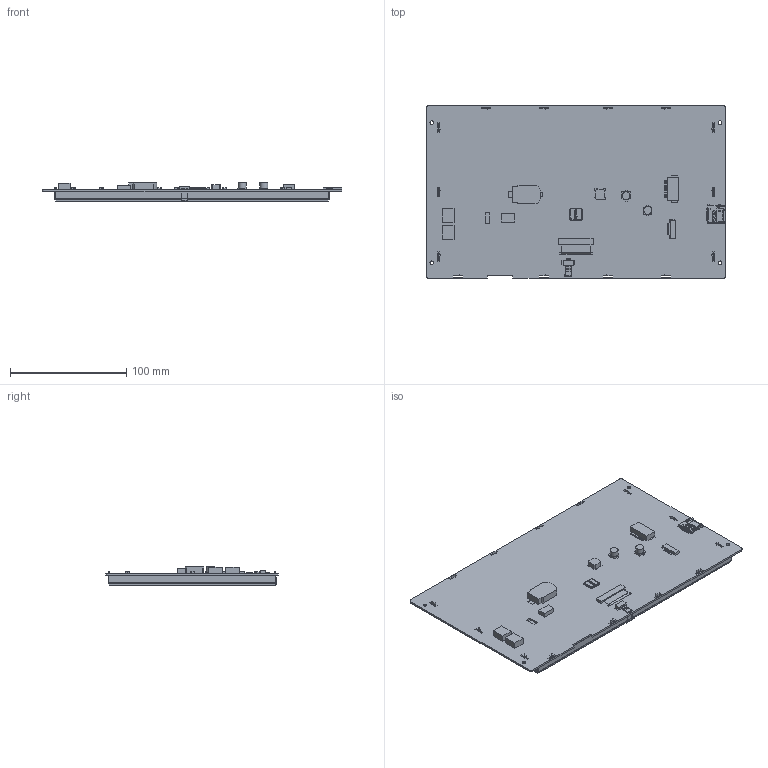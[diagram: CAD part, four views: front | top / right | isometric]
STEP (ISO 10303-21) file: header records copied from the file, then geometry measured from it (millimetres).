
FILE_DESCRIPTION(/* description */ (''),/* implementation_level */ '2;1');
FILE_NAME(/* name */ '',/* time_stamp */ '2021-07-24T15:11:12+08:00',/* author */ (''),/* organization */ (''),/* preprocessor_version */ 'ST-DEVELOPER v11',/* originating_system */ 'SIEMENS PLM Software NX 7.5',/* authorisation */ '');
FILE_SCHEMA (('AP203_CONFIGURATION_CONTROLLED_3D_DESIGN_OF_MECHANICAL_PARTS_AND_ASSEMBLIES_MIM_LF'));
Products named in the file (1): SDWb101T84T
Bounding box: 257.8 x 148.1 x 15.72 mm (x, y, z)
Volume: 126973.6 mm3; surface area: 233767.8 mm2
Topology: 24 solids, 24 shells, 2589 faces, 7673 edges, 5345 vertices
Faces by surface type: plane 2110, cylinder 471, bspline 7, cone 1
Full cylindrical faces by diameter (mm): 3.2 x4, 6.776 x2
Entity records: 88978 total; most frequent: CARTESIAN_POINT 15942, ORIENTED_EDGE 14832, DIRECTION 13670, EDGE_CURVE 7416, LINE 6648, VECTOR 6648, VERTEX_POINT 4870, AXIS2_PLACEMENT_3D 3511
